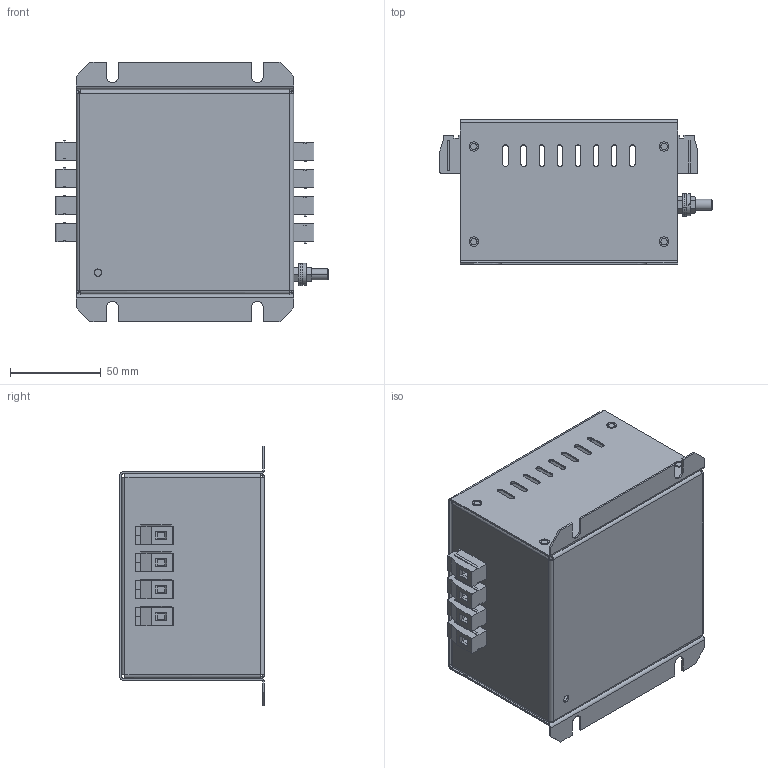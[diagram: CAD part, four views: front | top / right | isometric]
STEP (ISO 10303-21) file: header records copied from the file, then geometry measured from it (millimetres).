
FILE_DESCRIPTION (( 'STEP AP214' ), '1' );
FILE_NAME ('NF-4-16-GTR.STEP', '2026-09-15T11:06:24', ( '' ), ( '' ), 'SwSTEP 2.0', 'SolidWorks 2025', '' );
FILE_SCHEMA (( 'AUTOMOTIVE_DESIGN' ));
Length unit declared in the file: millimetre
Products named in the file (10): NF-4-16-GTR(2); AS 1237 - 6 mm; FH-M6-20 ZI; 1; ANSI B18.2.4.5M - M5 x 0.8; 1000-416; ASME B18.21.2M - 6, LWSHHSLW; 1000-416L; IFI 505 - 43, FHSBMBR; NF-4-16-GTR
Assembly tree (25 placements, depth 3):
  NF-4-16-GTR
    NF-4-16-GTR(2)
      1000-416
      1000-416L
      1  x8
      FH-M6-20 ZI
      ANSI B18.2.4.5M - M5 x 0.8  x2
      AS 1237 - 6 mm  x2
      ASME B18.21.2M - 6, LWSHHSLW
      IFI 505 - 43, FHSBMBR  x8
Bounding box: 150.2 x 80 x 143 mm (x, y, z)
Volume: 94368.3 mm3; surface area: 165845 mm2
Topology: 24 solids, 32 shells, 1373 faces, 3472 edges, 2220 vertices
Faces by surface type: plane 899, cylinder 302, cone 124, bspline 24, torus 24
Entity records: 17488 total; most frequent: CARTESIAN_POINT 3574, DIRECTION 2850, ORIENTED_EDGE 2840, EDGE_CURVE 1420, AXIS2_PLACEMENT_3D 1027, VERTEX_POINT 895, LINE 796, VECTOR 796
